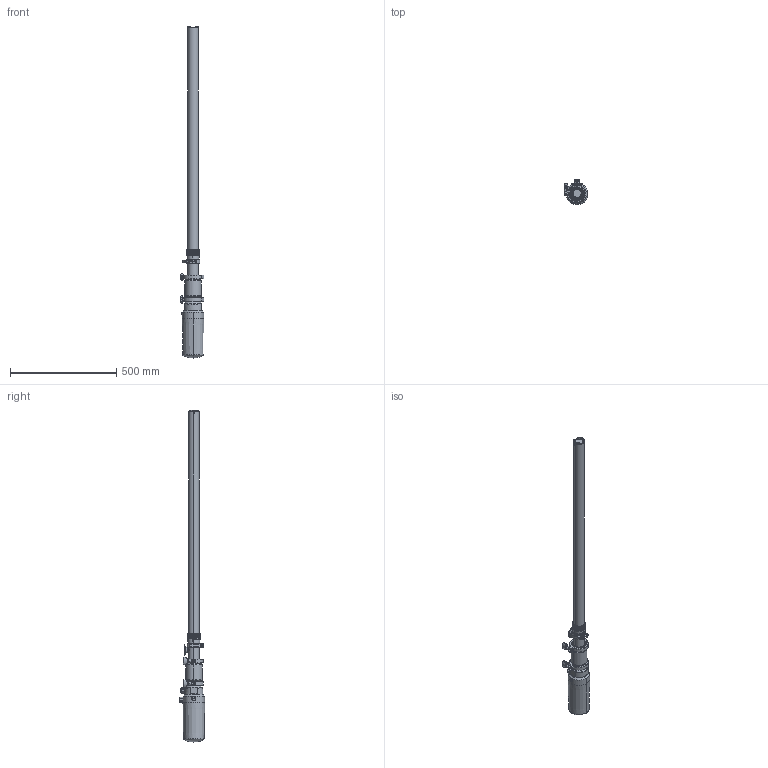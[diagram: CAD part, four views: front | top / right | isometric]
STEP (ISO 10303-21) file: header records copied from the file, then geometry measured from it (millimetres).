
FILE_DESCRIPTION((''),'2;1');
FILE_NAME('24N300-EN-S_PRT','2020-05-18T16:32:28',('qusrh3'),(''),'CREO PARAMETRIC BY PTC INC, 2019030','CREO PARAMETRIC BY PTC INC, 2019030','');
FILE_SCHEMA(('CONFIG_CONTROL_DESIGN'));
Length unit declared in the file: inch
Products named in the file (1): 24N300-EN-S_PRT
Bounding box: 112.77 x 119.45 x 1563.01 mm (x, y, z)
Surface area: 370302 mm2 (no closed solid volume)
Topology: 0 solids, 35 shells, 414 faces, 1234 edges, 825 vertices
Faces by surface type: cylinder 151, plane 108, torus 53, cone 51, bspline 49, sphere 2
Entity records: 21644 total; most frequent: CARTESIAN_POINT 11185, DIRECTION 2122, ORIENTED_EDGE 2072, EDGE_CURVE 1232, AXIS2_PLACEMENT_3D 830, VERTEX_POINT 825, CIRCLE 465, VECTOR 462
